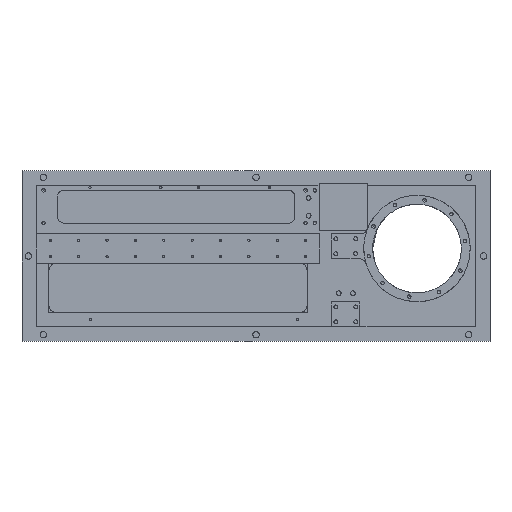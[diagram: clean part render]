
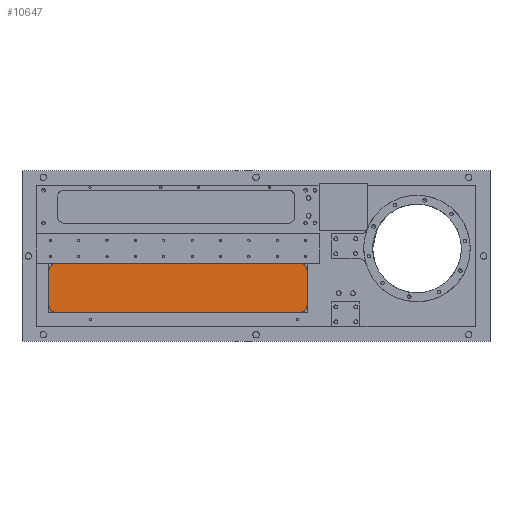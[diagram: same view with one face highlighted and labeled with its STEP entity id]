
A CAD part, top view. The second image highlights one B-rep face of the part: STEP entity #10647.
In plain terms, the highlighted free-form (B-spline) face has degree [1, 1] with [2, 2] control points.
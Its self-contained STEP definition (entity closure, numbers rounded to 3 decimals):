
#10612=CARTESIAN_POINT('',(-14.56,-90.,20.));
#10613=CARTESIAN_POINT('',(-378.56,-90.,20.));
#10614=CARTESIAN_POINT('',(-14.56,-21.,20.));
#10615=CARTESIAN_POINT('',(-378.56,-21.,20.));
#10616=B_SPLINE_SURFACE_WITH_KNOTS('',1,1,((#10612,#10613),(#10614,#10615)),.UNSPECIFIED.,.F.,.F.,.U.,(2,2),(2,2),(-0.08,-0.011),(-0.072,0.292),.UNSPECIFIED.);
#10617=CARTESIAN_POINT('',(-378.56,-90.,20.));
#10618=VERTEX_POINT('',#10617);
#10619=CARTESIAN_POINT('',(-378.56,-21.,20.));
#10620=VERTEX_POINT('',#10619);
#10621=CARTESIAN_POINT('',(-378.56,-90.,20.));
#10622=CARTESIAN_POINT('',(-378.56,-21.,20.));
#10623=B_SPLINE_CURVE_WITH_KNOTS('',1,(#10621,#10622),.UNSPECIFIED.,.F.,.F.,(2,2),(0.,0.069),.UNSPECIFIED.);
#10624=EDGE_CURVE('',#10618,#10620,#10623,.T.);
#10625=ORIENTED_EDGE('',*,*,#10624,.T.);
#10626=CARTESIAN_POINT('',(-14.56,-21.,20.));
#10627=VERTEX_POINT('',#10626);
#10628=CARTESIAN_POINT('',(-378.56,-21.,20.));
#10629=CARTESIAN_POINT('',(-14.56,-21.,20.));
#10630=B_SPLINE_CURVE_WITH_KNOTS('',1,(#10628,#10629),.UNSPECIFIED.,.F.,.F.,(2,2),(-0.,0.364),.UNSPECIFIED.);
#10631=EDGE_CURVE('',#10620,#10627,#10630,.T.);
#10632=ORIENTED_EDGE('',*,*,#10631,.T.);
#10633=CARTESIAN_POINT('',(-14.56,-90.,20.));
#10634=VERTEX_POINT('',#10633);
#10635=CARTESIAN_POINT('',(-14.56,-21.,20.));
#10636=CARTESIAN_POINT('',(-14.56,-90.,20.));
#10637=B_SPLINE_CURVE_WITH_KNOTS('',1,(#10635,#10636),.UNSPECIFIED.,.F.,.F.,(2,2),(0.,0.069),.UNSPECIFIED.);
#10638=EDGE_CURVE('',#10627,#10634,#10637,.T.);
#10639=ORIENTED_EDGE('',*,*,#10638,.T.);
#10640=CARTESIAN_POINT('',(-14.56,-90.,20.));
#10641=CARTESIAN_POINT('',(-378.56,-90.,20.));
#10642=B_SPLINE_CURVE_WITH_KNOTS('',1,(#10640,#10641),.UNSPECIFIED.,.F.,.F.,(2,2),(-0.,0.364),.UNSPECIFIED.);
#10643=EDGE_CURVE('',#10634,#10618,#10642,.T.);
#10644=ORIENTED_EDGE('',*,*,#10643,.T.);
#10645=EDGE_LOOP('',(#10625,#10632,#10639,#10644));
#10646=FACE_BOUND('',#10645,.T.);
#10647=ADVANCED_FACE('',(#10646),#10616,.F.);
